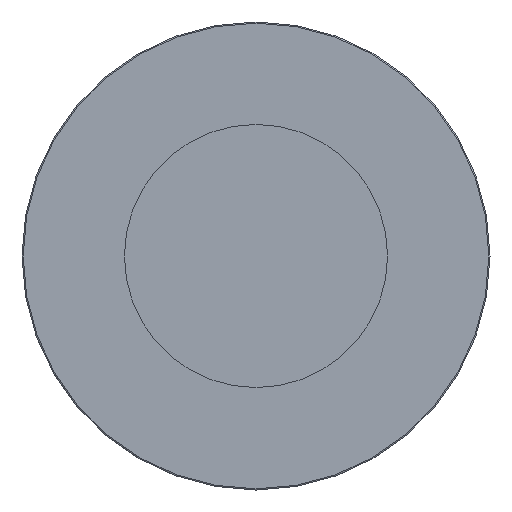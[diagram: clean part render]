
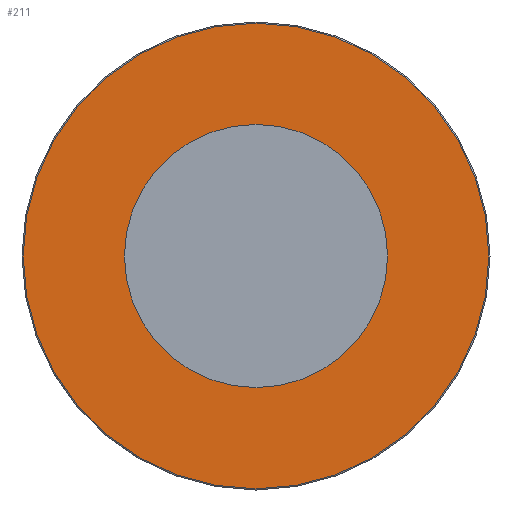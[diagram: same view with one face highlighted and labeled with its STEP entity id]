
A CAD part, front view. The second image highlights one B-rep face of the part: STEP entity #211.
In plain terms, the highlighted planar face has unit normal (0, -1, 0) as drawn and (0, 0, -1) by its records, which use the part's own axes.
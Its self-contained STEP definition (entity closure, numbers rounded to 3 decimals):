
#38=FACE_BOUND('',#77,.T.);
#45=PLANE('',#313);
#59=FACE_OUTER_BOUND('',#76,.T.);
#76=EDGE_LOOP('',(#180));
#77=EDGE_LOOP('',(#181));
#101=CIRCLE('',#307,398.);
#106=CIRCLE('',#314,25.);
#118=VERTEX_POINT('',#444);
#122=VERTEX_POINT('',#456);
#137=EDGE_CURVE('',#118,#118,#101,.T.);
#143=EDGE_CURVE('',#122,#122,#106,.T.);
#180=ORIENTED_EDGE('',*,*,#137,.F.);
#181=ORIENTED_EDGE('',*,*,#143,.T.);
#211=ADVANCED_FACE('',(#59,#38),#45,.F.);
#307=AXIS2_PLACEMENT_3D('',#445,#372,#373);
#313=AXIS2_PLACEMENT_3D('',#455,#385,#386);
#314=AXIS2_PLACEMENT_3D('',#457,#387,#388);
#372=DIRECTION('center_axis',(0.,0.,1.));
#373=DIRECTION('ref_axis',(-1.,0.,0.));
#385=DIRECTION('center_axis',(0.,0.,1.));
#386=DIRECTION('ref_axis',(1.,0.,0.));
#387=DIRECTION('center_axis',(0.,0.,1.));
#388=DIRECTION('ref_axis',(-1.,0.,0.));
#444=CARTESIAN_POINT('',(398.,0.,-20.));
#445=CARTESIAN_POINT('Origin',(0.,0.,-20.));
#455=CARTESIAN_POINT('Origin',(0.,0.,-20.));
#456=CARTESIAN_POINT('',(25.,0.,-20.));
#457=CARTESIAN_POINT('Origin',(0.,0.,-20.));
